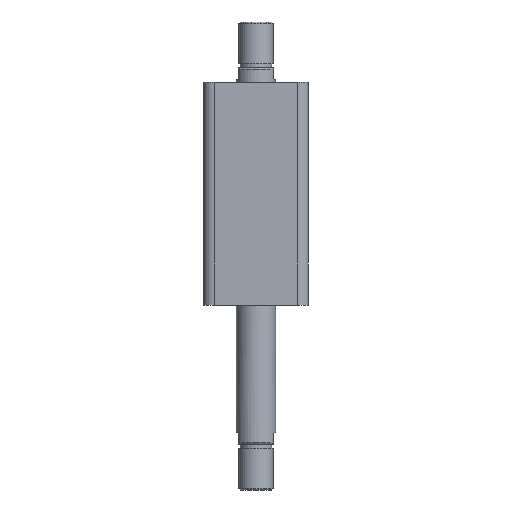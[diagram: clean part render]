
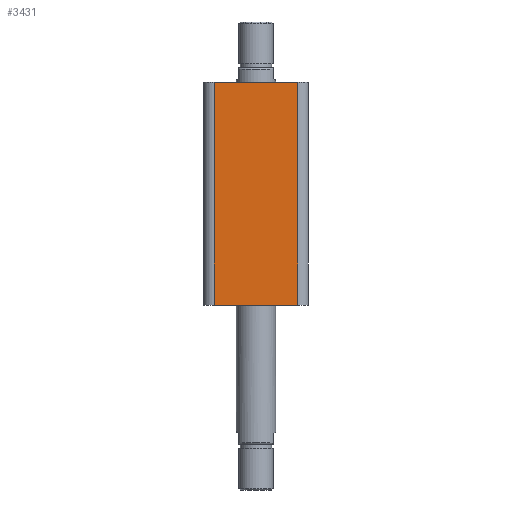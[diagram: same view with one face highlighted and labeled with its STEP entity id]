
A CAD part, front view. The second image highlights one B-rep face of the part: STEP entity #3431.
In plain terms, the highlighted planar face has unit normal (0, -1, 0).
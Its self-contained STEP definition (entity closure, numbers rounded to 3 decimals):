
#237 = CARTESIAN_POINT ( 'NONE',  ( -40., -40., 170. ) ) ;
#239 = PLANE ( 'NONE',  #2488 ) ;
#241 = DIRECTION ( 'NONE',  ( 0., 1., 0. ) ) ;
#242 = DIRECTION ( 'NONE',  ( 0., 0., 1. ) ) ;
#538 = CARTESIAN_POINT ( 'NONE',  ( -40., -40., 0. ) ) ;
#548 = CARTESIAN_POINT ( 'NONE',  ( -40., -40., 170. ) ) ;
#549 = DIRECTION ( 'NONE',  ( 1., 0., 0. ) ) ;
#550 = CARTESIAN_POINT ( 'NONE',  ( -32., -40., 170. ) ) ;
#551 = DIRECTION ( 'NONE',  ( 0., 0., -1. ) ) ;
#552 = DIRECTION ( 'NONE',  ( 1., 0., 0. ) ) ;
#553 = CARTESIAN_POINT ( 'NONE',  ( 32., -40., 170. ) ) ;
#554 = DIRECTION ( 'NONE',  ( 0., 0., 1. ) ) ;
#871 = VERTEX_POINT ( 'NONE', #2729 ) ;
#952 = EDGE_LOOP ( 'NONE', ( #1064, #1067, #1180, #1181 ) ) ;
#1064 = ORIENTED_EDGE ( 'NONE', *, *, #3241, .F. ) ;
#1067 = ORIENTED_EDGE ( 'NONE', *, *, #3242, .T. ) ;
#1180 = ORIENTED_EDGE ( 'NONE', *, *, #3243, .T. ) ;
#1181 = ORIENTED_EDGE ( 'NONE', *, *, #3244, .T. ) ;
#1616 = LINE ( 'NONE', #538, #1629 ) ;
#1622 = LINE ( 'NONE', #548, #1625 ) ;
#1624 = LINE ( 'NONE', #550, #1627 ) ;
#1625 = VECTOR ( 'NONE', #549, 1000. ) ;
#1627 = VECTOR ( 'NONE', #551, 1000. ) ;
#1628 = LINE ( 'NONE', #553, #1631 ) ;
#1629 = VECTOR ( 'NONE', #552, 1000. ) ;
#1631 = VECTOR ( 'NONE', #554, 1000. ) ;
#1796 = FACE_OUTER_BOUND ( 'NONE', #952, .T. ) ;
#2290 = VERTEX_POINT ( 'NONE', #2965 ) ;
#2291 = VERTEX_POINT ( 'NONE', #2966 ) ;
#2293 = VERTEX_POINT ( 'NONE', #2968 ) ;
#2488 = AXIS2_PLACEMENT_3D ( 'NONE', #237, #241, #242 ) ;
#2729 = CARTESIAN_POINT ( 'NONE',  ( -32., -40., 170. ) ) ;
#2965 = CARTESIAN_POINT ( 'NONE',  ( 32., -40., 170. ) ) ;
#2966 = CARTESIAN_POINT ( 'NONE',  ( 32., -40., 0. ) ) ;
#2968 = CARTESIAN_POINT ( 'NONE',  ( -32., -40., 0. ) ) ;
#3241 = EDGE_CURVE ( 'NONE', #871, #2290, #1622, .T. ) ;
#3242 = EDGE_CURVE ( 'NONE', #871, #2293, #1624, .T. ) ;
#3243 = EDGE_CURVE ( 'NONE', #2293, #2291, #1616, .T. ) ;
#3244 = EDGE_CURVE ( 'NONE', #2291, #2290, #1628, .T. ) ;
#3431 = ADVANCED_FACE ( 'NONE', ( #1796 ), #239, .F. ) ;
